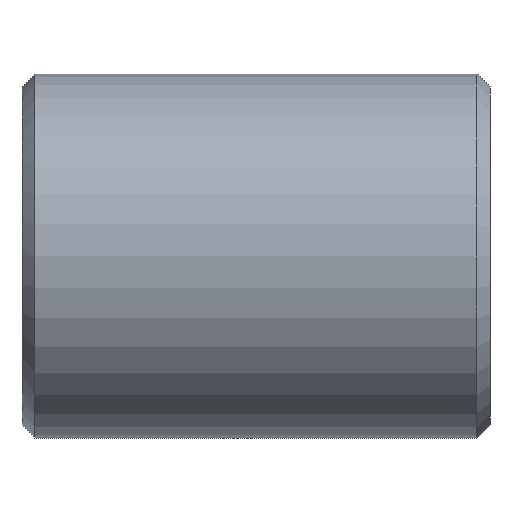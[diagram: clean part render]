
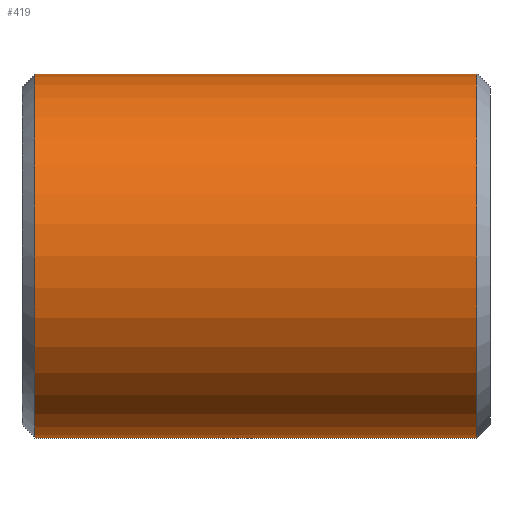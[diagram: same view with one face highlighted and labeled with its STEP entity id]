
A CAD part, front view. The second image highlights one B-rep face of the part: STEP entity #419.
In plain terms, the highlighted cylindrical face has radius 14 mm (diameter 28 mm), a partial arc.
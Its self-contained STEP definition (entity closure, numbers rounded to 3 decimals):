
#231=CARTESIAN_POINT('Vertex',(1.,0.,-14.)) ;
#238=CARTESIAN_POINT('Vertex',(1.,0.,14.)) ;
#267=CARTESIAN_POINT('Axis2P3D Location',(1.,0.,0.)) ;
#271=CARTESIAN_POINT('Vertex',(1.,-14.,0.)) ;
#274=CARTESIAN_POINT('Axis2P3D Location',(1.,0.,0.)) ;
#359=CARTESIAN_POINT('Line Origine',(36.,0.,14.)) ;
#363=CARTESIAN_POINT('Vertex',(35.,0.,14.)) ;
#377=CARTESIAN_POINT('Vertex',(35.,0.,-14.)) ;
#380=CARTESIAN_POINT('Line Origine',(36.,0.,-14.)) ;
#394=CARTESIAN_POINT('Axis2P3D Location',(36.,0.,0.)) ;
#399=CARTESIAN_POINT('Axis2P3D Location',(35.,0.,0.)) ;
#403=CARTESIAN_POINT('Vertex',(35.,-14.,0.)) ;
#406=CARTESIAN_POINT('Axis2P3D Location',(35.,0.,0.)) ;
#268=DIRECTION('Axis2P3D Direction',(1.,0.,-0.)) ;
#275=DIRECTION('Axis2P3D Direction',(1.,0.,-0.)) ;
#360=DIRECTION('Vector Direction',(-1.,0.,0.)) ;
#381=DIRECTION('Vector Direction',(-1.,0.,0.)) ;
#395=DIRECTION('Axis2P3D Direction',(-1.,-0.,-0.)) ;
#396=DIRECTION('Axis2P3D XDirection',(0.,0.,-1.)) ;
#400=DIRECTION('Axis2P3D Direction',(-1.,-0.,-0.)) ;
#407=DIRECTION('Axis2P3D Direction',(-1.,-0.,-0.)) ;
#269=AXIS2_PLACEMENT_3D('Circle Axis2P3D',#267,#268,$) ;
#276=AXIS2_PLACEMENT_3D('Circle Axis2P3D',#274,#275,$) ;
#397=AXIS2_PLACEMENT_3D('Cylinder Axis2P3D',#394,#395,#396) ;
#401=AXIS2_PLACEMENT_3D('Circle Axis2P3D',#399,#400,$) ;
#408=AXIS2_PLACEMENT_3D('Circle Axis2P3D',#406,#407,$) ;
#412=ORIENTED_EDGE('',*,*,#384,.T.) ;
#413=ORIENTED_EDGE('',*,*,#405,.F.) ;
#414=ORIENTED_EDGE('',*,*,#410,.F.) ;
#415=ORIENTED_EDGE('',*,*,#365,.T.) ;
#416=ORIENTED_EDGE('',*,*,#278,.T.) ;
#417=ORIENTED_EDGE('',*,*,#273,.T.) ;
#361=VECTOR('Line Direction',#360,1.) ;
#382=VECTOR('Line Direction',#381,1.) ;
#419=ADVANCED_FACE('352-20X36',(#418),#398,.T.) ;
#270=CIRCLE('generated circle',#269,14.) ;
#277=CIRCLE('generated circle',#276,14.) ;
#402=CIRCLE('generated circle',#401,14.) ;
#409=CIRCLE('generated circle',#408,14.) ;
#398=CYLINDRICAL_SURFACE('generated cylinder',#397,14.) ;
#273=EDGE_CURVE('',#272,#232,#270,.T.) ;
#278=EDGE_CURVE('',#239,#272,#277,.T.) ;
#365=EDGE_CURVE('',#364,#239,#362,.T.) ;
#384=EDGE_CURVE('',#232,#378,#383,.F.) ;
#405=EDGE_CURVE('',#404,#378,#402,.F.) ;
#410=EDGE_CURVE('',#364,#404,#409,.F.) ;
#411=EDGE_LOOP('',(#412,#413,#414,#415,#416,#417)) ;
#418=FACE_OUTER_BOUND('',#411,.T.) ;
#362=LINE('Line',#359,#361) ;
#383=LINE('Line',#380,#382) ;
#232=VERTEX_POINT('',#231) ;
#239=VERTEX_POINT('',#238) ;
#272=VERTEX_POINT('',#271) ;
#364=VERTEX_POINT('',#363) ;
#378=VERTEX_POINT('',#377) ;
#404=VERTEX_POINT('',#403) ;
